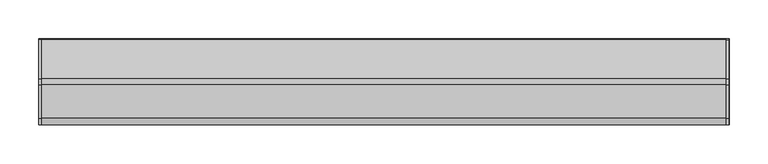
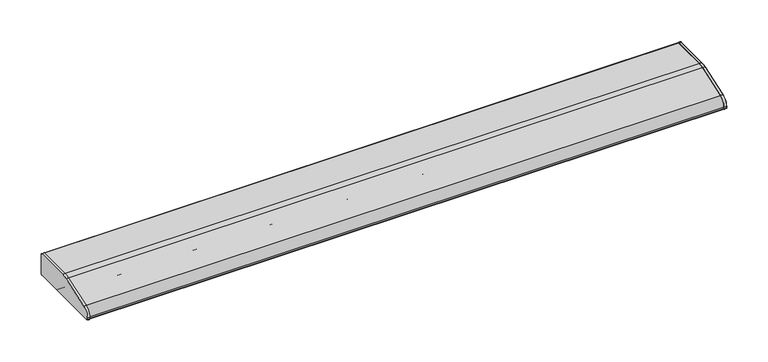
"""IFC4 building model written with IfcOpenShell, lengths in millimetres: light fixture geometry, HermanMiller_SupplementalProducts_G6136_UtilityTaskLight : AO Etho Canvas 42W."""

from ifc_helpers import new_model, si_unit, point, frame, frame_2d, origin, place, context, project, spatial, polyline, circle_curve, trimmed, segment, composite_curve, outline, extrude, source, transform, mapped, element, save


def light_fixture_049582d0(model_context):
    return source(origin(), model_context, "Body", "SweptSolid", [
        extrude(outline(composite_curve([segment(polyline([(53.975, 1244.6), (-53.975, 1244.6)]), True, "CONTINUOUS"), segment(trimmed(circle_curve(frame_2d((-53.975, 1246.1875)), 1.5875), [point((-53.975, 1244.6))], [point((-55.5625, 1246.1875))], False, "CARTESIAN"), True, "CONTINUOUS"), segment(polyline([(-55.5625, 1246.1875), (-55.5625, 1248.2285714)]), True, "CONTINUOUS"), segment(trimmed(circle_curve(frame_2d((-42.8625, 1248.2285714)), 12.7), [point((-55.5625, 1248.2285714))], [point((-46.9814189, 1260.2420849))], False, "CARTESIAN"), True, "CONTINUOUS"), segment(polyline([(-46.9814189, 1260.2420849), (-4.0045045, 1274.977027)]), True, "CONTINUOUS"), segment(trimmed(circle_curve(frame_2d((4.2333333, 1250.95)), 25.4), [point((-4.0045045, 1274.977027))], [point((4.2333333, 1276.35))], False, "CARTESIAN"), True, "CONTINUOUS"), segment(polyline([(4.2333333, 1276.35), (53.975, 1276.35)]), True, "CONTINUOUS"), segment(trimmed(circle_curve(frame_2d((53.975, 1274.7625)), 1.5875), [point((53.975, 1276.35))], [point((55.5625, 1274.7625))], False, "CARTESIAN"), True, "CONTINUOUS"), segment(polyline([(55.5625, 1274.7625), (55.5625, 1246.1875)]), True, "CONTINUOUS"), segment(trimmed(circle_curve(frame_2d((53.975, 1246.1875)), 1.5875), [point((55.5625, 1246.1875))], [point((53.975, 1244.6))], False, "CARTESIAN"), True, "CONTINUOUS")], self_intersect=False)), frame((441.833, 0.0, 0.0), z_axis=(1.0, 0.0, 0.0), x_axis=(0.0, 1.0, 0.0)), (0.0, 0.0, 1.0), 3.175),
        extrude(outline(composite_curve([segment(trimmed(circle_curve(frame_2d((53.975, 1274.7625)), 1.5875), [point((53.975, 1276.35))], [point((55.5625, 1274.7625))], False, "CARTESIAN"), True, "CONTINUOUS"), segment(polyline([(55.5625, 1274.7625), (55.5625, 1246.1875)]), True, "CONTINUOUS"), segment(trimmed(circle_curve(frame_2d((53.975, 1246.1875)), 1.5875), [point((55.5625, 1246.1875))], [point((53.975, 1244.6))], False, "CARTESIAN"), True, "CONTINUOUS"), segment(polyline([(53.975, 1244.6), (-53.975, 1244.6)]), True, "CONTINUOUS"), segment(trimmed(circle_curve(frame_2d((-53.975, 1246.1875)), 1.5875), [point((-53.975, 1244.6))], [point((-55.5625, 1246.1875))], False, "CARTESIAN"), True, "CONTINUOUS"), segment(polyline([(-55.5625, 1246.1875), (-55.5625, 1248.2285714)]), True, "CONTINUOUS"), segment(trimmed(circle_curve(frame_2d((-42.8625, 1248.2285714)), 12.7), [point((-55.5625, 1248.2285714))], [point((-46.9814189, 1260.2420849))], False, "CARTESIAN"), True, "CONTINUOUS"), segment(polyline([(-46.9814189, 1260.2420849), (-4.0045045, 1274.977027)]), True, "CONTINUOUS"), segment(trimmed(circle_curve(frame_2d((4.2333333, 1250.95)), 25.4), [point((-4.0045045, 1274.977027))], [point((4.2333333, 1276.35))], False, "CARTESIAN"), True, "CONTINUOUS"), segment(polyline([(4.2333333, 1276.35), (53.975, 1276.35)]), True, "CONTINUOUS")], self_intersect=False)), frame((-445.008, 0.0, 0.0), z_axis=(1.0, 0.0, 0.0), x_axis=(0.0, 1.0, 0.0)), (0.0, 0.0, 1.0), 3.175),
        extrude(outline(composite_curve([segment(polyline([(55.5625, 1274.7625), (55.5625, 1246.1875)]), True, "CONTINUOUS"), segment(trimmed(circle_curve(frame_2d((53.975, 1246.1875)), 1.5875), [point((55.5625, 1246.1875))], [point((53.975, 1244.6))], False, "CARTESIAN"), True, "CONTINUOUS"), segment(polyline([(53.975, 1244.6), (19.05, 1244.6)]), True, "CONTINUOUS"), segment(trimmed(circle_curve(frame_2d((19.05, 1246.1875)), 1.5875), [point((19.05, 1244.6))], [point((17.4625, 1246.1875))], False, "CARTESIAN"), True, "CONTINUOUS"), segment(polyline([(17.4625, 1246.1875), (17.4625, 1274.7625), (4.4979167, 1274.7625)]), True, "CONTINUOUS"), segment(trimmed(circle_curve(frame_2d((4.4979167, 1249.3625)), 25.4), [point((4.4979167, 1274.7625))], [point((-3.7399212, 1273.389527))], True, "CARTESIAN"), True, "CONTINUOUS"), segment(polyline([(-3.7399212, 1273.389527), (-37.4564189, 1261.8295849)]), True, "CONTINUOUS"), segment(trimmed(circle_curve(frame_2d((-33.3375, 1249.8160714)), 12.7), [point((-37.4564189, 1261.8295849))], [point((-46.0375, 1249.8160714))], True, "CARTESIAN"), True, "CONTINUOUS"), segment(polyline([(-46.0375, 1249.8160714), (-46.0375, 1246.1875)]), True, "CONTINUOUS"), segment(trimmed(circle_curve(frame_2d((-47.625, 1246.1875)), 1.5875), [point((-46.0375, 1246.1875))], [point((-47.625, 1244.6))], False, "CARTESIAN"), True, "CONTINUOUS"), segment(polyline([(-47.625, 1244.6), (-53.975, 1244.6)]), True, "CONTINUOUS"), segment(trimmed(circle_curve(frame_2d((-53.975, 1246.1875)), 1.5875), [point((-53.975, 1244.6))], [point((-55.5625, 1246.1875))], False, "CARTESIAN"), True, "CONTINUOUS"), segment(polyline([(-55.5625, 1246.1875), (-55.5625, 1248.2285714)]), True, "CONTINUOUS"), segment(trimmed(circle_curve(frame_2d((-42.8625, 1248.2285714)), 12.7), [point((-55.5625, 1248.2285714))], [point((-46.9814189, 1260.2420849))], False, "CARTESIAN"), True, "CONTINUOUS"), segment(polyline([(-46.9814189, 1260.2420849), (-4.0045045, 1274.977027)]), True, "CONTINUOUS"), segment(trimmed(circle_curve(frame_2d((4.2333333, 1250.95)), 25.4), [point((-4.0045045, 1274.977027))], [point((4.2333333, 1276.35))], False, "CARTESIAN"), True, "CONTINUOUS"), segment(polyline([(4.2333333, 1276.35), (53.975, 1276.35)]), True, "CONTINUOUS"), segment(trimmed(circle_curve(frame_2d((53.975, 1274.7625)), 1.5875), [point((53.975, 1276.35))], [point((55.5625, 1274.7625))], False, "CARTESIAN"), True, "CONTINUOUS")], self_intersect=False)), frame((-445.008, 0.0, 0.0), z_axis=(1.0, 0.0, 0.0), x_axis=(0.0, 1.0, 0.0)), (0.0, 0.0, 1.0), 890.4820011),
        extrude(outline(composite_curve([segment(trimmed(circle_curve(frame_2d((1.5875, 1262.0625)), 9.525), [point((-7.9375, 1262.0625))], [point((11.1125, 1262.0625))], False, "CARTESIAN"), True, "CONTINUOUS"), segment(trimmed(circle_curve(frame_2d((1.5875, 1262.0625)), 9.525), [point((11.1125, 1262.0625))], [point((-7.9375, 1262.0625))], False, "CARTESIAN"), True, "CONTINUOUS")], self_intersect=False)), frame((419.608, 0.0, 0.0), z_axis=(1.0, 0.0, 0.0), x_axis=(0.0, 1.0, 0.0)), (0.0, 0.0, 1.0), 12.7),
        extrude(outline(composite_curve([segment(trimmed(circle_curve(frame_2d((1.5875, 1262.0625)), 9.525), [point((-7.9375, 1262.0625))], [point((11.1125, 1262.0625))], False, "CARTESIAN"), True, "CONTINUOUS"), segment(trimmed(circle_curve(frame_2d((1.5875, 1262.0625)), 9.525), [point((11.1125, 1262.0625))], [point((-7.9375, 1262.0625))], False, "CARTESIAN"), True, "CONTINUOUS")], self_intersect=False)), frame((-432.308, 0.0, 0.0), z_axis=(1.0, 0.0, 0.0), x_axis=(0.0, 1.0, 0.0)), (0.0, 0.0, 1.0), 12.7),
        extrude(outline(composite_curve([segment(trimmed(circle_curve(frame_2d((1.5875, 1262.0625)), 9.525), [point((-7.9375, 1262.0625))], [point((11.1125, 1262.0625))], False, "CARTESIAN"), True, "CONTINUOUS"), segment(trimmed(circle_curve(frame_2d((1.5875, 1262.0625)), 9.525), [point((11.1125, 1262.0625))], [point((-7.9375, 1262.0625))], False, "CARTESIAN"), True, "CONTINUOUS")], self_intersect=False)), frame((-419.608, 0.0, 0.0), z_axis=(1.0, 0.0, 0.0), x_axis=(0.0, 1.0, 0.0)), (0.0, 0.0, 1.0), 839.216),
        extrude(outline(composite_curve([segment(polyline([(17.4625, 1247.775), (-46.0375, 1247.775), (-46.0375, 1249.8160714)]), True, "CONTINUOUS"), segment(trimmed(circle_curve(frame_2d((-33.3375, 1249.8160714)), 12.7), [point((-46.0375, 1249.8160714))], [point((-37.4564189, 1261.8295849))], False, "CARTESIAN"), True, "CONTINUOUS"), segment(polyline([(-37.4564189, 1261.8295849), (-3.7399212, 1273.389527)]), True, "CONTINUOUS"), segment(trimmed(circle_curve(frame_2d((4.4979167, 1249.3625)), 25.4), [point((-3.7399212, 1273.389527))], [point((4.4979167, 1274.7625))], False, "CARTESIAN"), True, "CONTINUOUS"), segment(polyline([(4.4979167, 1274.7625), (17.4625, 1274.7625), (17.4625, 1247.775)]), True, "CONTINUOUS")], self_intersect=False)), frame((432.308, 0.0, 0.0), z_axis=(1.0, 0.0, 0.0), x_axis=(0.0, 1.0, 0.0)), (0.0, 0.0, 1.0), 9.525),
        extrude(outline(composite_curve([segment(polyline([(17.4625, 1247.775), (-46.0375, 1247.775), (-46.0375, 1249.8160714)]), True, "CONTINUOUS"), segment(trimmed(circle_curve(frame_2d((-33.3375, 1249.8160714)), 12.7), [point((-46.0375, 1249.8160714))], [point((-37.4564189, 1261.8295849))], False, "CARTESIAN"), True, "CONTINUOUS"), segment(polyline([(-37.4564189, 1261.8295849), (-3.7399212, 1273.389527)]), True, "CONTINUOUS"), segment(trimmed(circle_curve(frame_2d((4.4979167, 1249.3625)), 25.4), [point((-3.7399212, 1273.389527))], [point((4.4979167, 1274.7625))], False, "CARTESIAN"), True, "CONTINUOUS"), segment(polyline([(4.4979167, 1274.7625), (17.4625, 1274.7625), (17.4625, 1247.775)]), True, "CONTINUOUS")], self_intersect=False)), frame((-441.833, 0.0, 0.0), z_axis=(1.0, 0.0, 0.0), x_axis=(0.0, 1.0, 0.0)), (0.0, 0.0, 1.0), 9.525),
    ])


if __name__ == "__main__":
    model = new_model("IFC4")
    model_context = context("Model", 3, world=origin())
    ifc_project = project(units=[si_unit("LENGTHUNIT", "METRE", prefix="MILLI")], contexts=[model_context])
    site = spatial("IfcSite", under=ifc_project)
    building = spatial("IfcBuilding", under=site)
    placement = place(None, origin())
    light_fixture_shape = light_fixture_049582d0(model_context)
    element("IfcLightFixture", 1, ObjectType="HermanMiller_SupplementalProducts_G6136_UtilityTaskLight : AO Etho Canvas 42W", at=placement, inside=building, context=model_context, shape_type="MappedRepresentation", body=[
        mapped(light_fixture_shape, transform((0.0, 0.0, 0.0), x_axis=(1.0, 0.0, 0.0), y_axis=(0.0, 1.0, 0.0), z_axis=(0.0, 0.0, 1.0))),
    ])
    save(model, "model.ifc")
